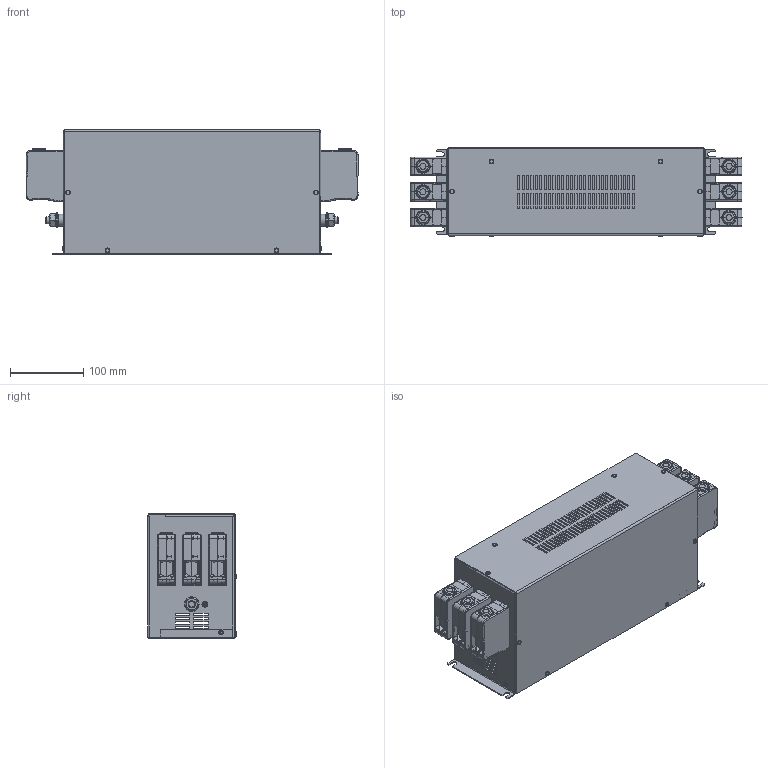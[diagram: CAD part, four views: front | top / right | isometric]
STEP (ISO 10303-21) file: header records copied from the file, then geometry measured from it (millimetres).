
FILE_DESCRIPTION((''),'2;1');
FILE_NAME('L:\INVENTOR_Projektedaten\HousingDesign\FN3258-180-40.stp','2012-12-19T14:42:59',('Samuel.Meier'),(''),'Autodesk Inventor 2010','Autodesk Inventor 2010','');
FILE_SCHEMA(('AUTOMOTIVE_DESIGN { 1 2 10303 214 0 1 1 1 }'));
Length unit declared in the file: millimetre
Products named in the file (1): FN3258-180-40_2
Bounding box: 452 x 120.8 x 170.8 mm (x, y, z)
Volume: 895686.7 mm3; surface area: 566272.8 mm2
Topology: 1 solids, 59 shells, 4634 faces, 11843 edges, 7351 vertices
Faces by surface type: plane 1770, cylinder 1334, bspline 1094, torus 268, cone 126, sphere 42
Full cylindrical faces by diameter (mm): 3.2 x10, 6.5 x10, 7 x1, 8 x1, 10 x4, 10.5 x2, 12.7 x2, 13.949 x2, 15.7 x2, 16.5 x2, 20 x2
Entity records: 169853 total; most frequent: CARTESIAN_POINT 58043, ORIENTED_EDGE 23300, DIRECTION 21486, EDGE_CURVE 11650, AXIS2_PLACEMENT_3D 8141, VERTEX_POINT 7316, VECTOR 5204, LINE 5204
